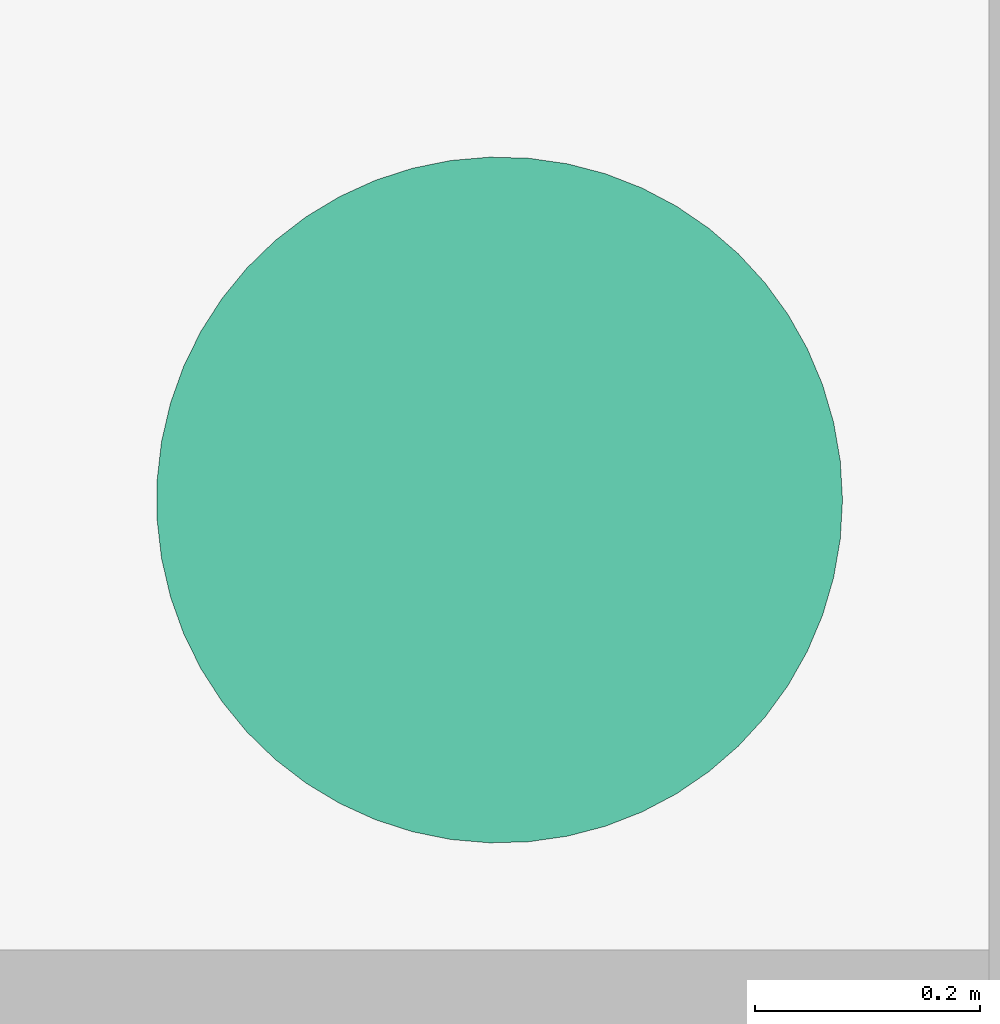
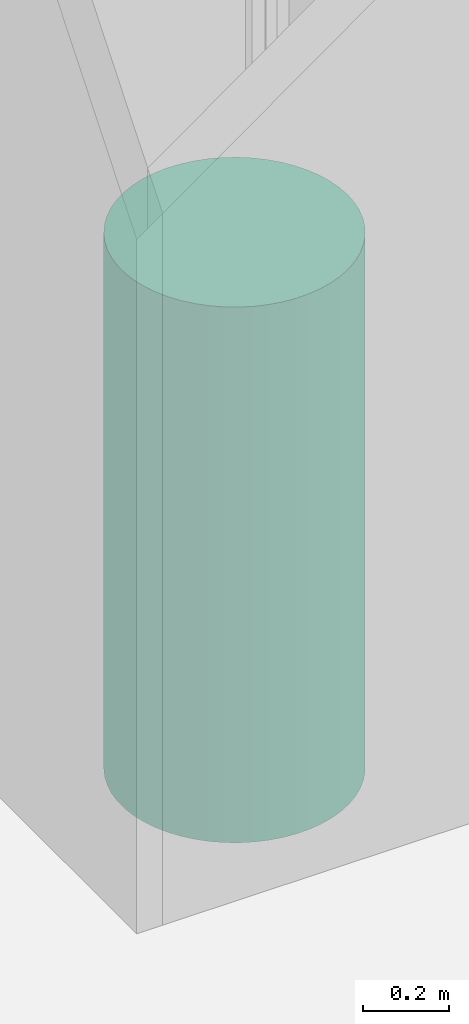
# One storey, part 16 of 18: 1 flow terminal.
"""IFC2X3 building model written with IfcOpenShell, lengths in metres."""

from ifc_helpers import new_model, entity, si_unit, converted_unit, derived_unit, direction, frame, frame_2d, origin, place, context, subcontext, project, spatial, circle, extrude, source, transform, mapped, type_object, type_shapes, element, save


model = new_model("IFC2X3")

# Units and contexts
model_context = context("Model", 3, precision=1e-05, world=origin(), true_north=direction((6.12303176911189e-17, 1.0)))
body_context = subcontext(model_context, "Body", "Model", "MODEL_VIEW")
ifc_project = project(units=[si_unit("LENGTHUNIT", "METRE"), si_unit("AREAUNIT", "SQUARE_METRE"), si_unit("VOLUMEUNIT", "CUBIC_METRE"), converted_unit("PLANEANGLEUNIT", "DEGREE", entity("IfcRatioMeasure", 0.0174532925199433), si_unit("PLANEANGLEUNIT", "RADIAN"), dimensions=[0, 0, 0, 0, 0, 0, 0]), si_unit("MASSUNIT", "GRAM", prefix="KILO"), derived_unit("MASSDENSITYUNIT", [(si_unit("MASSUNIT", "GRAM", prefix="KILO"), 1), (si_unit("LENGTHUNIT", "METRE"), -3)]), derived_unit("MOMENTOFINERTIAUNIT", [(si_unit("LENGTHUNIT", "METRE"), 4)]), si_unit("TIMEUNIT", "SECOND"), si_unit("FREQUENCYUNIT", "HERTZ"), si_unit("THERMODYNAMICTEMPERATUREUNIT", "DEGREE_CELSIUS"), derived_unit("THERMALTRANSMITTANCEUNIT", [(si_unit("MASSUNIT", "GRAM", prefix="KILO"), 1), (si_unit("THERMODYNAMICTEMPERATUREUNIT", "KELVIN"), -1), (si_unit("TIMEUNIT", "SECOND"), -3)]), derived_unit("VOLUMETRICFLOWRATEUNIT", [(si_unit("LENGTHUNIT", "METRE"), 3), (si_unit("TIMEUNIT", "SECOND"), -1)]), si_unit("ELECTRICCURRENTUNIT", "AMPERE"), si_unit("ELECTRICVOLTAGEUNIT", "VOLT"), si_unit("POWERUNIT", "WATT"), si_unit("FORCEUNIT", "NEWTON", prefix="KILO"), si_unit("ILLUMINANCEUNIT", "LUX"), si_unit("LUMINOUSFLUXUNIT", "LUMEN"), si_unit("LUMINOUSINTENSITYUNIT", "CANDELA"), derived_unit("USERDEFINED", [(si_unit("MASSUNIT", "GRAM", prefix="KILO"), -1), (si_unit("LENGTHUNIT", "METRE"), -2), (si_unit("TIMEUNIT", "SECOND"), 3), (si_unit("LUMINOUSFLUXUNIT", "LUMEN"), 1)]), derived_unit("LINEARVELOCITYUNIT", [(si_unit("LENGTHUNIT", "METRE"), 1), (si_unit("TIMEUNIT", "SECOND"), -1)]), si_unit("PRESSUREUNIT", "PASCAL"), derived_unit("USERDEFINED", [(si_unit("LENGTHUNIT", "METRE"), -2), (si_unit("MASSUNIT", "GRAM", prefix="KILO"), 1), (si_unit("TIMEUNIT", "SECOND"), -2)]), derived_unit("LINEARFORCEUNIT", [(si_unit("MASSUNIT", "GRAM", prefix="KILO"), 1), (si_unit("LENGTHUNIT", "METRE"), 1), (si_unit("TIMEUNIT", "SECOND"), -2), (si_unit("LENGTHUNIT", "METRE"), -1)]), derived_unit("PLANARFORCEUNIT", [(si_unit("MASSUNIT", "GRAM", prefix="KILO"), 1), (si_unit("LENGTHUNIT", "METRE"), 1), (si_unit("TIMEUNIT", "SECOND"), -2), (si_unit("LENGTHUNIT", "METRE"), -2)])], contexts=[model_context])

# Site, building, storey
site_placement = place(None, origin())
site = spatial("IfcSite", under=ifc_project, at=site_placement, Name="Surface", CompositionType="ELEMENT")
building_placement = place(site_placement, origin())
building = spatial("IfcBuilding", under=site, at=building_placement, CompositionType="ELEMENT")
storey_placement = place(building_placement, origin())
storey = spatial("IfcBuildingStorey", under=building, at=storey_placement, Name="RDC", CompositionType="ELEMENT", Elevation=-1.94916083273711e-14)

# Flow terminal
distribution_element_type = type_object("IfcDistributionElementType", Name="Chauffe eau:Chauffe eau")
shared_shape = source(origin(), body_context, "Body", "SweptSolid", [
    extrude(circle(Radius=0.305, at=frame_2d((2.0605001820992e-17, 4.92716529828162e-16), x_axis=(1.0, 0.0))), origin(), (0.0, 0.0, 1.0), 1.525),
])
type_shapes(distribution_element_type, [shared_shape])
flow_terminal_placement = place(storey_placement, frame((-7.44369429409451, 1.52737977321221, 0.0)))
element("IfcFlowTerminal", 1, at=flow_terminal_placement, inside=storey, type_object=distribution_element_type, Name="Chauffe eau:Chauffe eau", ObjectType="Chauffe eau:Chauffe eau", context=body_context, shape_type="MappedRepresentation", body=[
    mapped(shared_shape, transform((0.0, 0.0, 0.0), scale=1.0)),
])

save(model, "model.ifc")
